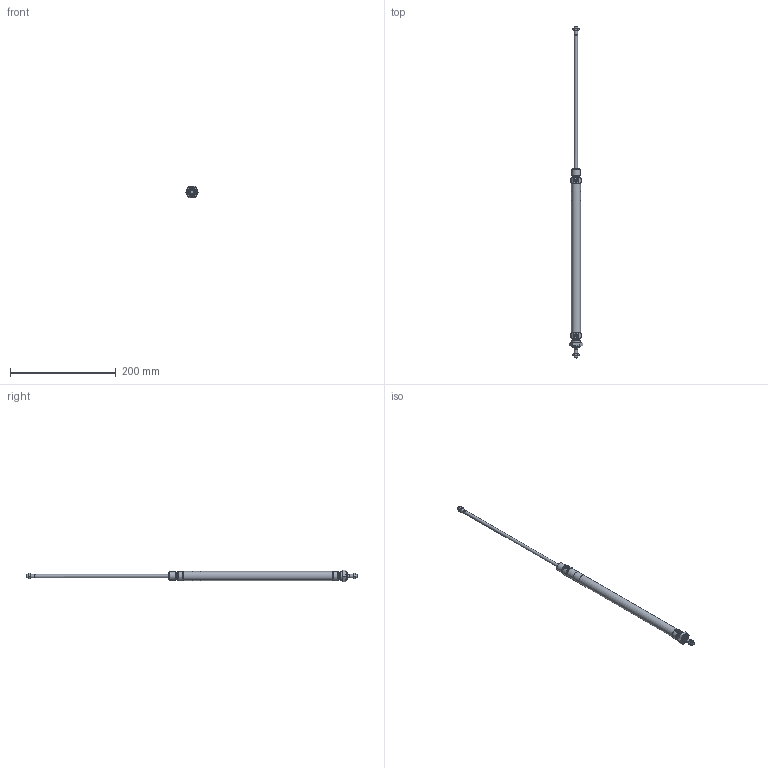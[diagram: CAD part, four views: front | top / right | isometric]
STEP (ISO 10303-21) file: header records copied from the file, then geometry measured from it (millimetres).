
FILE_DESCRIPTION(/* description */ ('Unknown'),/* implementation_level */ '2;1');
FILE_NAME(/* name */ 'RBM 16_250',/* time_stamp */ '2024-08-29T10:22:25+02:00',/* author */ ('Unknown'),/* organization */ ('Unknown'),/* preprocessor_version */ 'ST-DEVELOPER v16.7',/* originating_system */ 'Solid Edge',/* authorisation */ 'Unknown');
FILE_SCHEMA (('AUTOMOTIVE_DESIGN {1 0 10303 214 3 1 1}'));
Length unit declared in the file: millimetre
Products named in the file (6): RBM 16_250; Profilrohr; Kolbenstange; Kit; Mutter_1; Mutter_2
Assembly tree (8 placements, depth 2):
  RBM 16_250
    Profilrohr
    Kolbenstange  x2
    Kit  x2
    Mutter_1  x2
    Mutter_2
Bounding box: 25.4 x 629 x 22 mm (x, y, z)
Volume: 46576.3 mm3; surface area: 50517.6 mm2
Topology: 8 solids, 8 shells, 187 faces, 371 edges, 226 vertices
Faces by surface type: plane 76, cone 58, cylinder 39, torus 14
Full cylindrical faces by diameter (mm): 4.12 x2, 4.134 x2, 4.917 x2, 6 x4, 6.5 x2, 7.1 x2, 9 x2, 9.1 x2, 11.1 x2, 11.2 x2, 13.7 x2, 14.376 x1, 16 x7, 17.2 x2, 17.27 x1
Entity records: 3163 total; most frequent: CARTESIAN_POINT 470, DIRECTION 422, ORIENTED_EDGE 302, AXIS2_PLACEMENT_3D 196, EDGE_LOOP 168, FACE_BOUND 168, EDGE_CURVE 151, VERTEX_POINT 117
